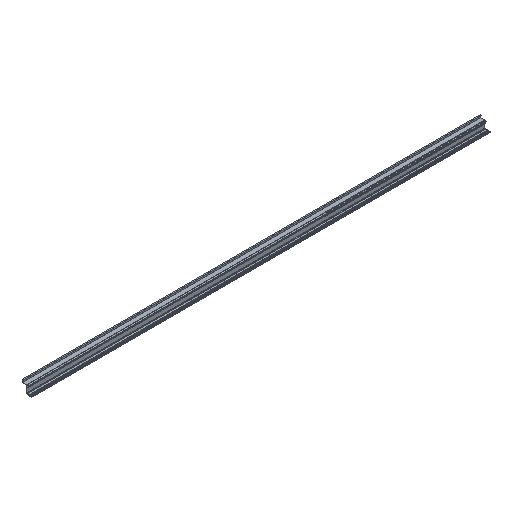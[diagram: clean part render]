
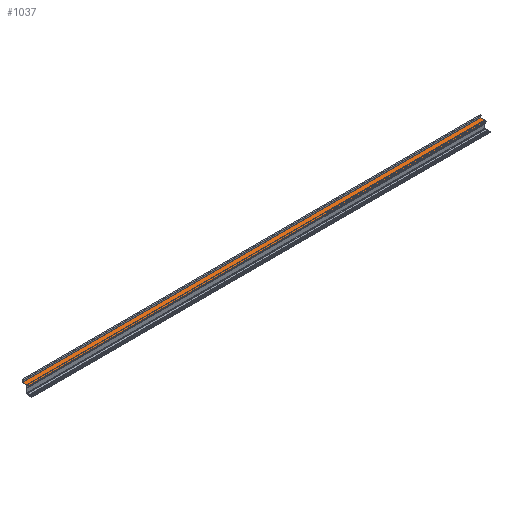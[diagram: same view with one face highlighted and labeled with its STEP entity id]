
A CAD part, isometric view. The second image highlights one B-rep face of the part: STEP entity #1037.
In plain terms, the highlighted planar face has unit normal (0, 0, 1).
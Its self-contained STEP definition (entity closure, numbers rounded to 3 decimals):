
#1037=ADVANCED_FACE('',(#1849),#1850,.T.);
#1849=FACE_OUTER_BOUND('',#2952,.T.);
#1850=PLANE('',#2953);
#2952=EDGE_LOOP('',(#3887,#3888,#3889,#3890));
#2953=AXIS2_PLACEMENT_3D('',#3891,#3892,#3893);
#3887=ORIENTED_EDGE('',*,*,#5052,.T.);
#3888=ORIENTED_EDGE('',*,*,#4864,.T.);
#3889=ORIENTED_EDGE('',*,*,#5053,.F.);
#3890=ORIENTED_EDGE('',*,*,#5054,.F.);
#3891=CARTESIAN_POINT('',(2420.0,25.0,65.0));
#3892=DIRECTION('',(0.,0.,1.0));
#3893=DIRECTION('',(0.,1.0,0.));
#4864=EDGE_CURVE('',#5580,#5578,#5581,.T.);
#5052=EDGE_CURVE('',#5859,#5580,#5860,.T.);
#5053=EDGE_CURVE('',#5861,#5578,#5862,.T.);
#5054=EDGE_CURVE('',#5859,#5861,#5863,.T.);
#5578=VERTEX_POINT('',#6184);
#5580=VERTEX_POINT('',#6187);
#5581=LINE('',#6188,#6189);
#5859=VERTEX_POINT('',#6573);
#5860=LINE('',#6574,#6575);
#5861=VERTEX_POINT('',#6576);
#5862=LINE('',#6577,#6578);
#5863=LINE('',#6579,#6580);
#6184=CARTESIAN_POINT('',(0.0,72.,65.0));
#6187=CARTESIAN_POINT('',(3500.0,72.0,65.0));
#6188=CARTESIAN_POINT('',(2420.0,72.0,65.0));
#6189=VECTOR('',#6959,1.0);
#6573=CARTESIAN_POINT('',(3500.0,25.0,65.0));
#6574=CARTESIAN_POINT('',(3500.0,25.0,65.0));
#6575=VECTOR('',#7159,1.0);
#6576=CARTESIAN_POINT('',(0.0,25.,65.0));
#6577=CARTESIAN_POINT('',(0.0,25.,65.0));
#6578=VECTOR('',#7160,1.0);
#6579=CARTESIAN_POINT('',(2420.0,25.0,65.0));
#6580=VECTOR('',#7161,1.0);
#6959=DIRECTION('',(-1.0,0.,0.));
#7159=DIRECTION('',(0.,1.0,0.));
#7160=DIRECTION('',(0.,1.0,0.));
#7161=DIRECTION('',(-1.0,0.,0.));
